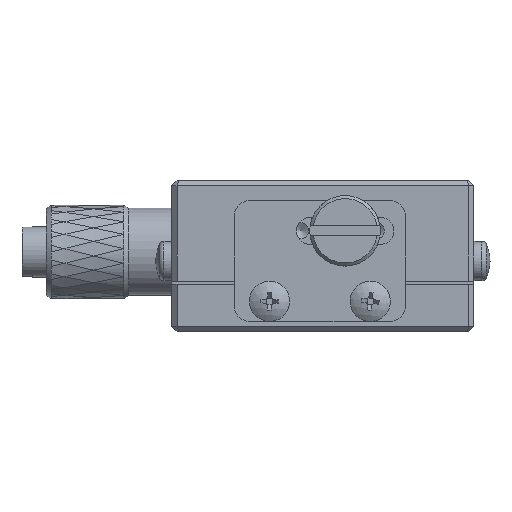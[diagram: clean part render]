
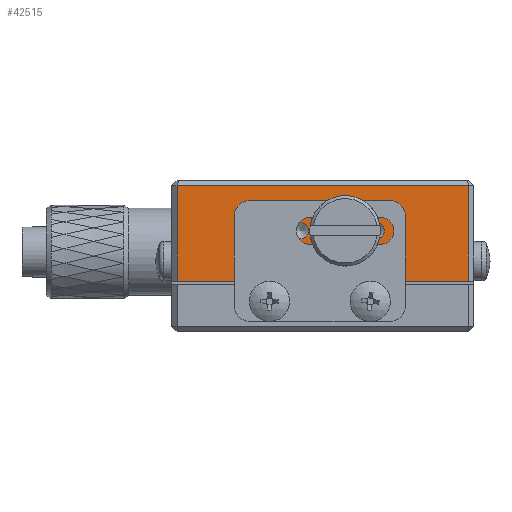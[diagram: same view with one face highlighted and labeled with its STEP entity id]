
A CAD part, front view. The second image highlights one B-rep face of the part: STEP entity #42515.
In plain terms, the highlighted planar face has unit normal (0, -1, 0).
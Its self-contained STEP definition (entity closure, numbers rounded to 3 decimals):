
#1156 = VECTOR ( 'NONE', #15471, 1000. ) ;
#1552 = ORIENTED_EDGE ( 'NONE', *, *, #45890, .F. ) ;
#2242 = CIRCLE ( 'NONE', #16370, 1.025 ) ;
#3147 = AXIS2_PLACEMENT_3D ( 'NONE', #12919, #25411, #29818 ) ;
#3991 = DIRECTION ( 'NONE',  ( 0., 0., -1. ) ) ;
#4089 = LINE ( 'NONE', #29022, #46707 ) ;
#4615 = FACE_BOUND ( 'NONE', #14849, .T. ) ;
#4973 = ORIENTED_EDGE ( 'NONE', *, *, #10013, .F. ) ;
#7255 = DIRECTION ( 'NONE',  ( 1., 0., 0. ) ) ;
#7321 = AXIS2_PLACEMENT_3D ( 'NONE', #27463, #36320, #48253 ) ;
#8272 = CARTESIAN_POINT ( 'NONE',  ( -29.7, -54.629, 13.235 ) ) ;
#8612 = CARTESIAN_POINT ( 'NONE',  ( -28.9, -54.629, 13.235 ) ) ;
#8695 = LINE ( 'NONE', #42486, #19393 ) ;
#10013 = EDGE_CURVE ( 'NONE', #37987, #37987, #21670, .T. ) ;
#10356 = CARTESIAN_POINT ( 'NONE',  ( -31.775, -54.629, 13.235 ) ) ;
#11674 = CARTESIAN_POINT ( 'NONE',  ( -32.8, -54.629, 13.235 ) ) ;
#11745 = VERTEX_POINT ( 'NONE', #15459 ) ;
#12361 = ORIENTED_EDGE ( 'NONE', *, *, #19155, .T. ) ;
#12447 = VERTEX_POINT ( 'NONE', #40151 ) ;
#12601 = CIRCLE ( 'NONE', #7321, 0.8 ) ;
#12631 = FACE_OUTER_BOUND ( 'NONE', #42963, .T. ) ;
#12919 = CARTESIAN_POINT ( 'NONE',  ( -20.5, -54.629, 8.235 ) ) ;
#14431 = VERTEX_POINT ( 'NONE', #15004 ) ;
#14849 = EDGE_LOOP ( 'NONE', ( #18455 ) ) ;
#15004 = CARTESIAN_POINT ( 'NONE',  ( -49.5, -54.629, 17.735 ) ) ;
#15459 = CARTESIAN_POINT ( 'NONE',  ( -49.5, -54.629, 8.235 ) ) ;
#15471 = DIRECTION ( 'NONE',  ( -1., 0., 0. ) ) ;
#15486 = VECTOR ( 'NONE', #40047, 1000. ) ;
#16370 = AXIS2_PLACEMENT_3D ( 'NONE', #11674, #37714, #7255 ) ;
#18455 = ORIENTED_EDGE ( 'NONE', *, *, #29359, .F. ) ;
#19155 = EDGE_CURVE ( 'NONE', #32905, #14431, #20450, .T. ) ;
#19366 = CARTESIAN_POINT ( 'NONE',  ( -20.5, -54.629, 17.735 ) ) ;
#19393 = VECTOR ( 'NONE', #3991, 1000. ) ;
#19630 = EDGE_LOOP ( 'NONE', ( #32624 ) ) ;
#20450 = LINE ( 'NONE', #50113, #1156 ) ;
#21670 = CIRCLE ( 'NONE', #28736, 0.8 ) ;
#22935 = VERTEX_POINT ( 'NONE', #48447 ) ;
#24452 = ORIENTED_EDGE ( 'NONE', *, *, #48458, .F. ) ;
#25411 = DIRECTION ( 'NONE',  ( 0., 1., 0. ) ) ;
#25574 = EDGE_CURVE ( 'NONE', #11745, #12447, #43666, .T. ) ;
#27463 = CARTESIAN_POINT ( 'NONE',  ( -37.2, -54.629, 13.235 ) ) ;
#28517 = ORIENTED_EDGE ( 'NONE', *, *, #25574, .T. ) ;
#28736 = AXIS2_PLACEMENT_3D ( 'NONE', #8272, #43407, #45701 ) ;
#29022 = CARTESIAN_POINT ( 'NONE',  ( -49.5, -54.629, 12.985 ) ) ;
#29359 = EDGE_CURVE ( 'NONE', #22935, #22935, #12601, .T. ) ;
#29818 = DIRECTION ( 'NONE',  ( -1., 0., 0. ) ) ;
#29874 = EDGE_LOOP ( 'NONE', ( #4973 ) ) ;
#32624 = ORIENTED_EDGE ( 'NONE', *, *, #35221, .F. ) ;
#32905 = VERTEX_POINT ( 'NONE', #19366 ) ;
#35221 = EDGE_CURVE ( 'NONE', #50465, #50465, #2242, .T. ) ;
#36320 = DIRECTION ( 'NONE',  ( 0., -1., 0. ) ) ;
#37714 = DIRECTION ( 'NONE',  ( 0., -1., 0. ) ) ;
#37987 = VERTEX_POINT ( 'NONE', #8612 ) ;
#40047 = DIRECTION ( 'NONE',  ( 1., 0., 0. ) ) ;
#40151 = CARTESIAN_POINT ( 'NONE',  ( -20.5, -54.629, 8.235 ) ) ;
#42486 = CARTESIAN_POINT ( 'NONE',  ( -20.5, -54.629, 12.985 ) ) ;
#42515 = ADVANCED_FACE ( 'NONE', ( #42564, #4615, #50887, #12631 ), #51445, .F. ) ;
#42564 = FACE_BOUND ( 'NONE', #29874, .T. ) ;
#42963 = EDGE_LOOP ( 'NONE', ( #28517, #24452, #12361, #1552 ) ) ;
#43407 = DIRECTION ( 'NONE',  ( 0., -1., 0. ) ) ;
#43666 = LINE ( 'NONE', #44219, #15486 ) ;
#44219 = CARTESIAN_POINT ( 'NONE',  ( -35., -54.629, 8.235 ) ) ;
#45701 = DIRECTION ( 'NONE',  ( 1., 0., 0. ) ) ;
#45890 = EDGE_CURVE ( 'NONE', #11745, #14431, #4089, .T. ) ;
#46707 = VECTOR ( 'NONE', #54508, 1000. ) ;
#48253 = DIRECTION ( 'NONE',  ( 1., 0., 0. ) ) ;
#48447 = CARTESIAN_POINT ( 'NONE',  ( -36.4, -54.629, 13.235 ) ) ;
#48458 = EDGE_CURVE ( 'NONE', #32905, #12447, #8695, .T. ) ;
#50113 = CARTESIAN_POINT ( 'NONE',  ( -35., -54.629, 17.735 ) ) ;
#50465 = VERTEX_POINT ( 'NONE', #10356 ) ;
#50887 = FACE_BOUND ( 'NONE', #19630, .T. ) ;
#51445 = PLANE ( 'NONE',  #3147 ) ;
#54508 = DIRECTION ( 'NONE',  ( 0., 0., 1. ) ) ;
